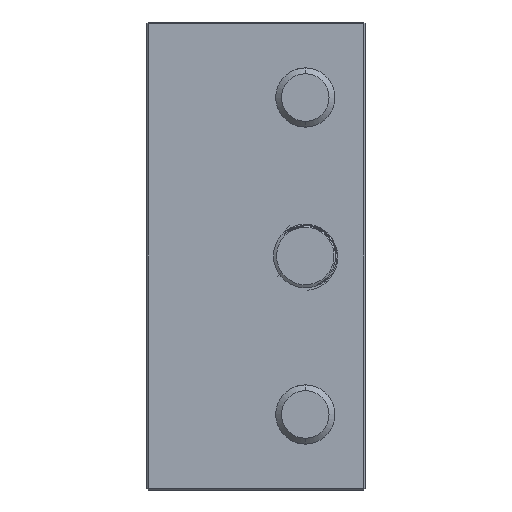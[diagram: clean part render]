
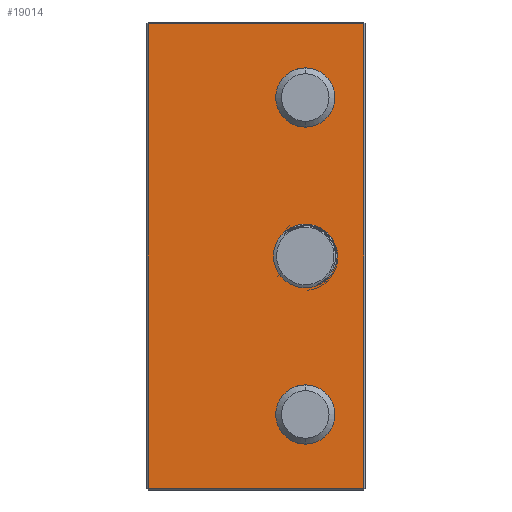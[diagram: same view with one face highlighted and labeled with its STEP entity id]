
A CAD part, left-side view. The second image highlights one B-rep face of the part: STEP entity #19014.
In plain terms, the highlighted planar face has unit normal (-1, 0, 0).
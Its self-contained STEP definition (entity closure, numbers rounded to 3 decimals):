
#158 = CARTESIAN_POINT ( 'NONE',  ( -11., -7.9, -25.4 ) ) ;
#493 = VECTOR ( 'NONE', #14937, 1000. ) ;
#635 = CIRCLE ( 'NONE', #13828, 4.75 ) ;
#777 = CARTESIAN_POINT ( 'NONE',  ( -11., -7.9, -30.15 ) ) ;
#813 = FACE_BOUND ( 'NONE', #17549, .T. ) ;
#878 = ORIENTED_EDGE ( 'NONE', *, *, #16325, .T. ) ;
#1282 = AXIS2_PLACEMENT_3D ( 'NONE', #14572, #7101, #19357 ) ;
#1601 = CIRCLE ( 'NONE', #20120, 5.1 ) ;
#1830 = DIRECTION ( 'NONE',  ( 1., 0., 0. ) ) ;
#1989 = ORIENTED_EDGE ( 'NONE', *, *, #16950, .T. ) ;
#2145 = LINE ( 'NONE', #6887, #2936 ) ;
#2258 = EDGE_CURVE ( 'NONE', #16670, #11733, #2145, .T. ) ;
#2433 = VERTEX_POINT ( 'NONE', #18675 ) ;
#2936 = VECTOR ( 'NONE', #5145, 1000. ) ;
#3294 = DIRECTION ( 'NONE',  ( 0., 0., -1. ) ) ;
#3587 = CARTESIAN_POINT ( 'NONE',  ( -11., -7.9, 5.1 ) ) ;
#3752 = EDGE_LOOP ( 'NONE', ( #20026, #1989 ) ) ;
#4247 = CIRCLE ( 'NONE', #10170, 5.1 ) ;
#4503 = DIRECTION ( 'NONE',  ( 0., 0., -1. ) ) ;
#4801 = DIRECTION ( 'NONE',  ( 1., 0., 0. ) ) ;
#4831 = DIRECTION ( 'NONE',  ( 0., 0., 1. ) ) ;
#5145 = DIRECTION ( 'NONE',  ( 0., 1., 0. ) ) ;
#5246 = EDGE_LOOP ( 'NONE', ( #7922, #10145, #14810, #7590 ) ) ;
#5522 = DIRECTION ( 'NONE',  ( 1., 0., 0. ) ) ;
#5660 = DIRECTION ( 'NONE',  ( 0., 0., -1. ) ) ;
#5948 = ORIENTED_EDGE ( 'NONE', *, *, #13137, .T. ) ;
#6216 = CIRCLE ( 'NONE', #17793, 4.75 ) ;
#6675 = CARTESIAN_POINT ( 'NONE',  ( -11., -7.9, 0. ) ) ;
#6680 = CARTESIAN_POINT ( 'NONE',  ( -11., -7.9, -5.1 ) ) ;
#6887 = CARTESIAN_POINT ( 'NONE',  ( -11., 17.5, 37.246 ) ) ;
#6973 = CARTESIAN_POINT ( 'NONE',  ( -11., -7.9, 25.4 ) ) ;
#7101 = DIRECTION ( 'NONE',  ( 1., 0., 0. ) ) ;
#7163 = CARTESIAN_POINT ( 'NONE',  ( -11., -17.246, -37.246 ) ) ;
#7388 = CARTESIAN_POINT ( 'NONE',  ( -11., -7.9, 0. ) ) ;
#7547 = EDGE_CURVE ( 'NONE', #17398, #17002, #10175, .T. ) ;
#7590 = ORIENTED_EDGE ( 'NONE', *, *, #2258, .T. ) ;
#7922 = ORIENTED_EDGE ( 'NONE', *, *, #16715, .T. ) ;
#8275 = ORIENTED_EDGE ( 'NONE', *, *, #7547, .T. ) ;
#8410 = CIRCLE ( 'NONE', #18009, 4.75 ) ;
#8746 = CARTESIAN_POINT ( 'NONE',  ( -11., -7.9, -25.4 ) ) ;
#9041 = CARTESIAN_POINT ( 'NONE',  ( -11., -7.9, -20.65 ) ) ;
#9143 = DIRECTION ( 'NONE',  ( 1., 0., 0. ) ) ;
#9383 = VERTEX_POINT ( 'NONE', #11643 ) ;
#9774 = CARTESIAN_POINT ( 'NONE',  ( -11., 17.5, -37.246 ) ) ;
#10145 = ORIENTED_EDGE ( 'NONE', *, *, #11784, .T. ) ;
#10170 = AXIS2_PLACEMENT_3D ( 'NONE', #6675, #1830, #15672 ) ;
#10175 = CIRCLE ( 'NONE', #10492, 4.75 ) ;
#10203 = PLANE ( 'NONE',  #1282 ) ;
#10492 = AXIS2_PLACEMENT_3D ( 'NONE', #158, #4801, #20231 ) ;
#10886 = EDGE_LOOP ( 'NONE', ( #8275, #5948 ) ) ;
#11359 = VERTEX_POINT ( 'NONE', #13516 ) ;
#11565 = DIRECTION ( 'NONE',  ( 1., 0., 0. ) ) ;
#11638 = CARTESIAN_POINT ( 'NONE',  ( -11., 17.246, 37.246 ) ) ;
#11643 = CARTESIAN_POINT ( 'NONE',  ( -11., 17.246, -37.246 ) ) ;
#11658 = DIRECTION ( 'NONE',  ( 0., 0., -1. ) ) ;
#11683 = VERTEX_POINT ( 'NONE', #6680 ) ;
#11733 = VERTEX_POINT ( 'NONE', #11638 ) ;
#11766 = FACE_BOUND ( 'NONE', #3752, .T. ) ;
#11784 = EDGE_CURVE ( 'NONE', #9383, #12071, #19522, .T. ) ;
#11853 = CARTESIAN_POINT ( 'NONE',  ( -11., 17.246, 37.5 ) ) ;
#12071 = VERTEX_POINT ( 'NONE', #7163 ) ;
#12705 = CARTESIAN_POINT ( 'NONE',  ( -11., -7.9, 25.4 ) ) ;
#13137 = EDGE_CURVE ( 'NONE', #17002, #17398, #8410, .T. ) ;
#13516 = CARTESIAN_POINT ( 'NONE',  ( -11., -7.9, 20.65 ) ) ;
#13757 = EDGE_CURVE ( 'NONE', #12071, #16670, #19019, .T. ) ;
#13828 = AXIS2_PLACEMENT_3D ( 'NONE', #6973, #5522, #16192 ) ;
#14572 = CARTESIAN_POINT ( 'NONE',  ( -11., 17.5, 37.5 ) ) ;
#14810 = ORIENTED_EDGE ( 'NONE', *, *, #13757, .T. ) ;
#14860 = LINE ( 'NONE', #11853, #18103 ) ;
#14870 = FACE_BOUND ( 'NONE', #10886, .T. ) ;
#14937 = DIRECTION ( 'NONE',  ( 0., -1., 0. ) ) ;
#15672 = DIRECTION ( 'NONE',  ( 0., 0., -1. ) ) ;
#15894 = CARTESIAN_POINT ( 'NONE',  ( -11., -17.246, 37.5 ) ) ;
#15940 = ORIENTED_EDGE ( 'NONE', *, *, #17477, .T. ) ;
#16192 = DIRECTION ( 'NONE',  ( 0., 0., -1. ) ) ;
#16325 = EDGE_CURVE ( 'NONE', #2433, #11359, #6216, .T. ) ;
#16511 = CARTESIAN_POINT ( 'NONE',  ( -11., -17.246, 37.246 ) ) ;
#16670 = VERTEX_POINT ( 'NONE', #16511 ) ;
#16715 = EDGE_CURVE ( 'NONE', #11733, #9383, #14860, .T. ) ;
#16950 = EDGE_CURVE ( 'NONE', #19519, #11683, #1601, .T. ) ;
#17002 = VERTEX_POINT ( 'NONE', #9041 ) ;
#17179 = EDGE_CURVE ( 'NONE', #11683, #19519, #4247, .T. ) ;
#17364 = VECTOR ( 'NONE', #4831, 1000. ) ;
#17365 = DIRECTION ( 'NONE',  ( 1., 0., 0. ) ) ;
#17398 = VERTEX_POINT ( 'NONE', #777 ) ;
#17477 = EDGE_CURVE ( 'NONE', #11359, #2433, #635, .T. ) ;
#17549 = EDGE_LOOP ( 'NONE', ( #15940, #878 ) ) ;
#17793 = AXIS2_PLACEMENT_3D ( 'NONE', #12705, #17365, #3294 ) ;
#18009 = AXIS2_PLACEMENT_3D ( 'NONE', #8746, #11565, #5660 ) ;
#18082 = FACE_OUTER_BOUND ( 'NONE', #5246, .T. ) ;
#18103 = VECTOR ( 'NONE', #11658, 1000. ) ;
#18675 = CARTESIAN_POINT ( 'NONE',  ( -11., -7.9, 30.15 ) ) ;
#19014 = ADVANCED_FACE ( 'NONE', ( #11766, #813, #14870, #18082 ), #10203, .F. ) ;
#19019 = LINE ( 'NONE', #15894, #17364 ) ;
#19357 = DIRECTION ( 'NONE',  ( 0., 0., -1. ) ) ;
#19519 = VERTEX_POINT ( 'NONE', #3587 ) ;
#19522 = LINE ( 'NONE', #9774, #493 ) ;
#20026 = ORIENTED_EDGE ( 'NONE', *, *, #17179, .T. ) ;
#20120 = AXIS2_PLACEMENT_3D ( 'NONE', #7388, #9143, #4503 ) ;
#20231 = DIRECTION ( 'NONE',  ( 0., 0., -1. ) ) ;
